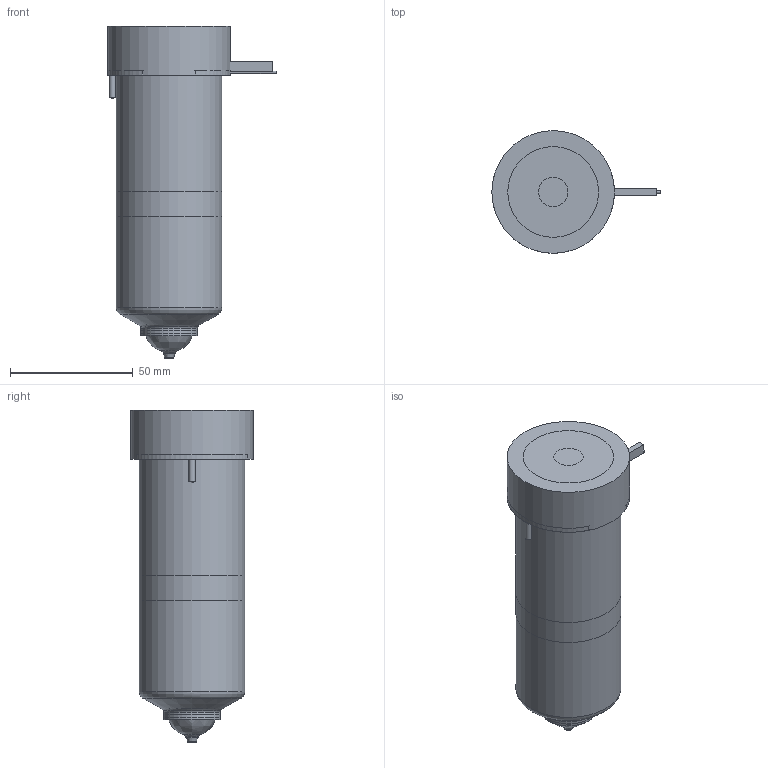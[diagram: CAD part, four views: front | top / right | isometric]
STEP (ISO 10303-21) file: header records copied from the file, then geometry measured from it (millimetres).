
FILE_DESCRIPTION(/* description */ (''),/* implementation_level */ '2;1');
FILE_NAME(/* name */ 'BXTV27115_200C_b',/* time_stamp */ '2007-01-18T10:02:08+13:00',/* author */ (''),/* organization */ (''),/* preprocessor_version */ 'ST-DEVELOPER v9',/* originating_system */ 'UGS - NX 4.0',/* authorisation */ '');
FILE_SCHEMA (('CONFIG_CONTROL_DESIGN'));
Length unit declared in the file: millimetre
Products named in the file (1): BXTV27115_200C_b
Bounding box: 68.6 x 50 x 135.3 mm (x, y, z)
Volume: 349882.3 mm3; surface area: 46060.9 mm2
Topology: 6 solids, 6 shells, 82 faces, 164 edges, 105 vertices
Faces by surface type: plane 34, cylinder 23, cone 14, torus 9, bspline 2
Full cylindrical faces by diameter (mm): 1 x3, 2.5 x2, 5 x1, 12 x1, 22.61 x1, 23.01 x2, 27.5 x1, 38.1 x1, 43 x2, 50 x1
Entity records: 2170 total; most frequent: CARTESIAN_POINT 532, DIRECTION 342, ORIENTED_EDGE 246, AXIS2_PLACEMENT_3D 152, EDGE_LOOP 126, EDGE_CURVE 123, VERTEX_POINT 98, ADVANCED_FACE 82
